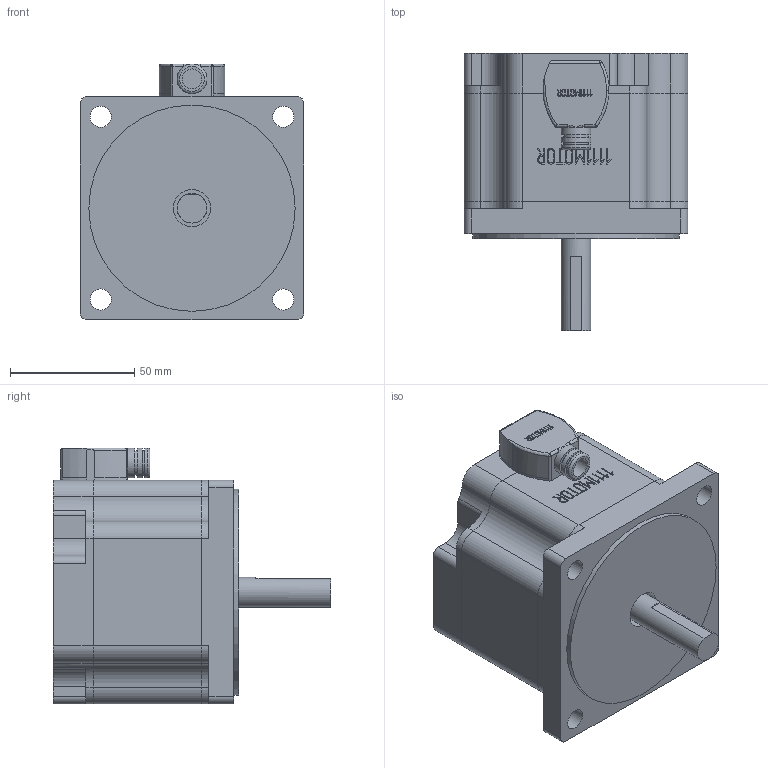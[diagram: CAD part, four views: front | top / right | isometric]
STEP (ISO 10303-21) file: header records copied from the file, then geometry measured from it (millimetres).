
FILE_DESCRIPTION(/* description */ ('Unknown'),/* implementation_level */ '2;1');
FILE_NAME(/* name */ 'BL90N',/* time_stamp */ '2020-12-29T11:22:59+08:00',/* author */ ('Unknown'),/* organization */ ('Unknown'),/* preprocessor_version */ 'ST-DEVELOPER v16.7',/* originating_system */ 'DEX',/* authorisation */ $);
FILE_SCHEMA (('AUTOMOTIVE_DESIGN {1 0 10303 214 3 1 1}'));
Length unit declared in the file: millimetre
Products named in the file (6): BL90N; BL90前; BL90後; BL90軸0; BL90玂臔姱; BL90N诀
Assembly tree (5 placements, depth 2):
  BL90N
    BL90前
    BL90後
    BL90軸0
    BL90玂臔姱
    BL90N诀
Bounding box: 90 x 111.5 x 103 mm (x, y, z)
Volume: 295490.8 mm3; surface area: 81745.3 mm2
Topology: 5 solids, 5 shells, 320 faces, 840 edges, 557 vertices
Faces by surface type: plane 196, cylinder 93, bspline 27, sphere 3, torus 1
Full cylindrical faces by diameter (mm): 2.459 x6, 3.242 x4, 8 x1, 8.5 x4, 10 x2, 12 x4, 15 x1, 20.8 x1, 30 x1, 80 x2, 83 x1
Entity records: 12954 total; most frequent: CARTESIAN_POINT 2961, ORIENTED_EDGE 1562, DIRECTION 1518, EDGE_CURVE 781, VERTEX_POINT 539, LINE 536, VECTOR 536, AXIS2_PLACEMENT_3D 491
